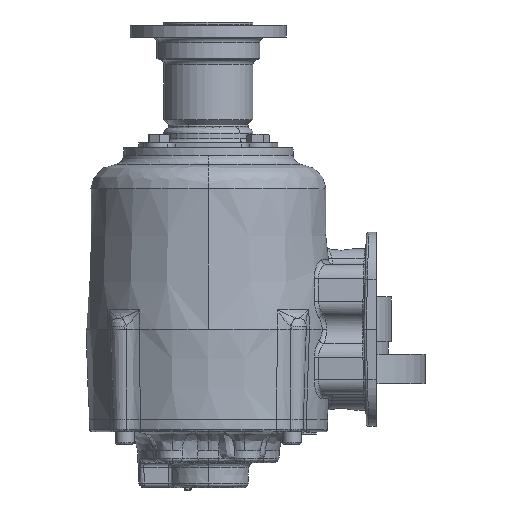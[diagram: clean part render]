
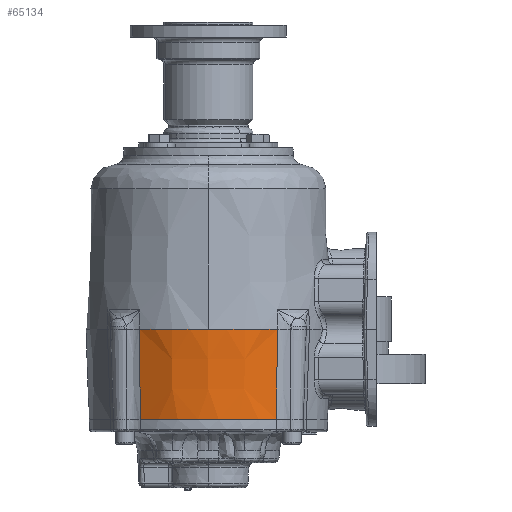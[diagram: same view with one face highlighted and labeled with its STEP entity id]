
A CAD part, left-side view. The second image highlights one B-rep face of the part: STEP entity #65134.
In plain terms, the highlighted conical face has half-angle 2 degrees and reference radius 78.232 mm.
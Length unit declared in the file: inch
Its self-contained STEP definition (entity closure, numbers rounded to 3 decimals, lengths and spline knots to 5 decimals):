
#964 = CIRCLE ( 'NONE', #966, 3.08 ) ;
#966 = AXIS2_PLACEMENT_3D ( 'NONE', #92757, #92759, #92761 ) ;
#968 = CIRCLE ( 'NONE', #974, 3.00092 ) ;
#974 = AXIS2_PLACEMENT_3D ( 'NONE', #92773, #92775, #92777 ) ;
#14071 = CONICAL_SURFACE ( 'NONE', #14075, 3.08, 0.035 ) ;
#14075 = AXIS2_PLACEMENT_3D ( 'NONE', #153835, #153837, #153826 ) ;
#26769 = VERTEX_POINT ( 'NONE', #152559 ) ;
#26901 = VERTEX_POINT ( 'NONE', #152673 ) ;
#27031 = ORIENTED_EDGE ( 'NONE', *, *, #107010, .F. ) ;
#27033 = ORIENTED_EDGE ( 'NONE', *, *, #58788, .T. ) ;
#27035 = ORIENTED_EDGE ( 'NONE', *, *, #58755, .F. ) ;
#27037 = ORIENTED_EDGE ( 'NONE', *, *, #58799, .T. ) ;
#27038 = ORIENTED_EDGE ( 'NONE', *, *, #58753, .F. ) ;
#47283 = VERTEX_POINT ( 'NONE', #153112 ) ;
#47287 = VERTEX_POINT ( 'NONE', #153116 ) ;
#47303 = VERTEX_POINT ( 'NONE', #153132 ) ;
#58753 = EDGE_CURVE ( 'NONE', #26769, #47287, #964, .T. ) ;
#58755 = EDGE_CURVE ( 'NONE', #47283, #47303, #968, .T. ) ;
#58788 = EDGE_CURVE ( 'NONE', #26901, #47303, #102849, .T. ) ;
#58799 = EDGE_CURVE ( 'NONE', #47283, #47287, #103366, .T. ) ;
#65134 = ADVANCED_FACE ( 'NONE', ( #153836 ), #14071, .T. ) ;
#72028 = EDGE_LOOP ( 'NONE', ( #27031, #27033, #27035, #27037, #27038 ) ) ;
#83501 = CIRCLE ( 'NONE', #83507, 3.08 ) ;
#83507 = AXIS2_PLACEMENT_3D ( 'NONE', #87222, #87225, #87228 ) ;
#87222 = CARTESIAN_POINT ( 'NONE',  ( -0.32707, 0.03727, -0.86956 ) ) ;
#87225 = DIRECTION ( 'NONE',  ( 0., 0., 1. ) ) ;
#87228 = DIRECTION ( 'NONE',  ( 1., 0., 0. ) ) ;
#92757 = CARTESIAN_POINT ( 'NONE',  ( -0.32707, 0.03727, -0.86956 ) ) ;
#92759 = DIRECTION ( 'NONE',  ( 0., 0., 1. ) ) ;
#92761 = DIRECTION ( 'NONE',  ( 1., 0., 0. ) ) ;
#92773 = CARTESIAN_POINT ( 'NONE',  ( -0.32707, 0.03727, -3.13406 ) ) ;
#92775 = DIRECTION ( 'NONE',  ( 0., 0., -1. ) ) ;
#92777 = DIRECTION ( 'NONE',  ( 1., 0., 0. ) ) ;
#93205 = CARTESIAN_POINT ( 'NONE',  ( -2.84382, 1.76533, -1.64577 ) ) ;
#93216 = CARTESIAN_POINT ( 'NONE',  ( -2.87096, 1.77365, -0.86956 ) ) ;
#93227 = CARTESIAN_POINT ( 'NONE',  ( -2.81732, 1.75734, -2.4006 ) ) ;
#93229 = CARTESIAN_POINT ( 'NONE',  ( -2.79144, 1.7497, -3.13406 ) ) ;
#93381 = CARTESIAN_POINT ( 'NONE',  ( -2.79144, -1.67515, -3.13406 ) ) ;
#93384 = CARTESIAN_POINT ( 'NONE',  ( -2.81732, -1.6828, -2.4006 ) ) ;
#93407 = CARTESIAN_POINT ( 'NONE',  ( -2.84382, -1.69078, -1.64577 ) ) ;
#93409 = CARTESIAN_POINT ( 'NONE',  ( -2.87096, -1.6991, -0.86956 ) ) ;
#102849 = B_SPLINE_CURVE_WITH_KNOTS ( 'NONE', 3,
 ( #93216, #93205, #93227, #93229 ),
 .UNSPECIFIED., .F., .F.,
 ( 4, 4 ),
 ( 0., 1. ),
 .UNSPECIFIED. ) ;
#103366 = B_SPLINE_CURVE_WITH_KNOTS ( 'NONE', 3,
 ( #93381, #93384, #93407, #93409 ),
 .UNSPECIFIED., .F., .F.,
 ( 4, 4 ),
 ( 0., 1. ),
 .UNSPECIFIED. ) ;
#107010 = EDGE_CURVE ( 'NONE', #26901, #26769, #83501, .T. ) ;
#152559 = CARTESIAN_POINT ( 'NONE',  ( -3.40707, 0.03727, -0.86956 ) ) ;
#152673 = CARTESIAN_POINT ( 'NONE',  ( -2.87096, 1.77365, -0.86956 ) ) ;
#153112 = CARTESIAN_POINT ( 'NONE',  ( -2.79144, -1.67515, -3.13406 ) ) ;
#153116 = CARTESIAN_POINT ( 'NONE',  ( -2.87096, -1.6991, -0.86956 ) ) ;
#153132 = CARTESIAN_POINT ( 'NONE',  ( -2.79144, 1.7497, -3.13406 ) ) ;
#153826 = DIRECTION ( 'NONE',  ( 1., 0., 0. ) ) ;
#153835 = CARTESIAN_POINT ( 'NONE',  ( -0.32707, 0.03727, -0.86956 ) ) ;
#153836 = FACE_OUTER_BOUND ( 'NONE', #72028, .T. ) ;
#153837 = DIRECTION ( 'NONE',  ( 0., 0., 1. ) ) ;
